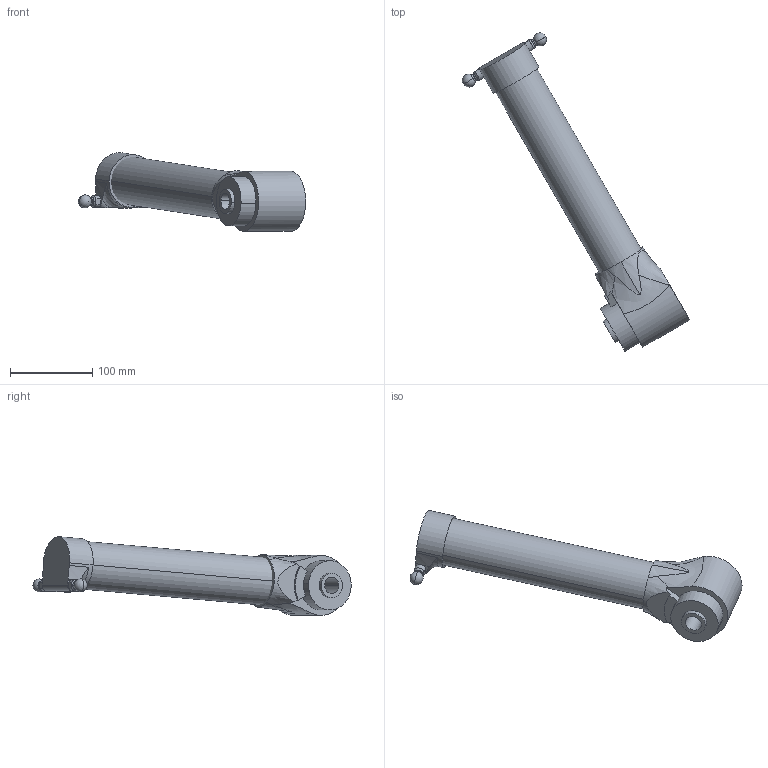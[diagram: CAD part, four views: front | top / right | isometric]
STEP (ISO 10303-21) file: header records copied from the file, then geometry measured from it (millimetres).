
FILE_DESCRIPTION (( 'STEP AP214' ), '1' );
FILE_NAME ('IRB360_X-1130-WD-3D_rev03_UA3_CAD.STEP', '2023-12-04T09:09:41', ( '' ), ( '' ), 'SwSTEP 2.0', 'SolidWorks 2022', '' );
FILE_SCHEMA (( 'AUTOMOTIVE_DESIGN' ));
Length unit declared in the file: millimetre
Products named in the file (1): IRB360_X-1130-WD-3D_rev03_UA3_CAD
Bounding box: 276.49 x 386.92 x 95.74 mm (x, y, z)
Volume: 1397325.2 mm3; surface area: 128598.5 mm2
Topology: 6 solids, 6 shells, 86 faces, 206 edges, 132 vertices
Faces by surface type: cylinder 27, plane 27, cone 13, torus 11, sphere 4, bspline 4
Entity records: 3903 total; most frequent: CARTESIAN_POINT 1689, DIRECTION 428, ORIENTED_EDGE 392, EDGE_CURVE 196, AXIS2_PLACEMENT_3D 183, VERTEX_POINT 126, CIRCLE 100, EDGE_LOOP 92
